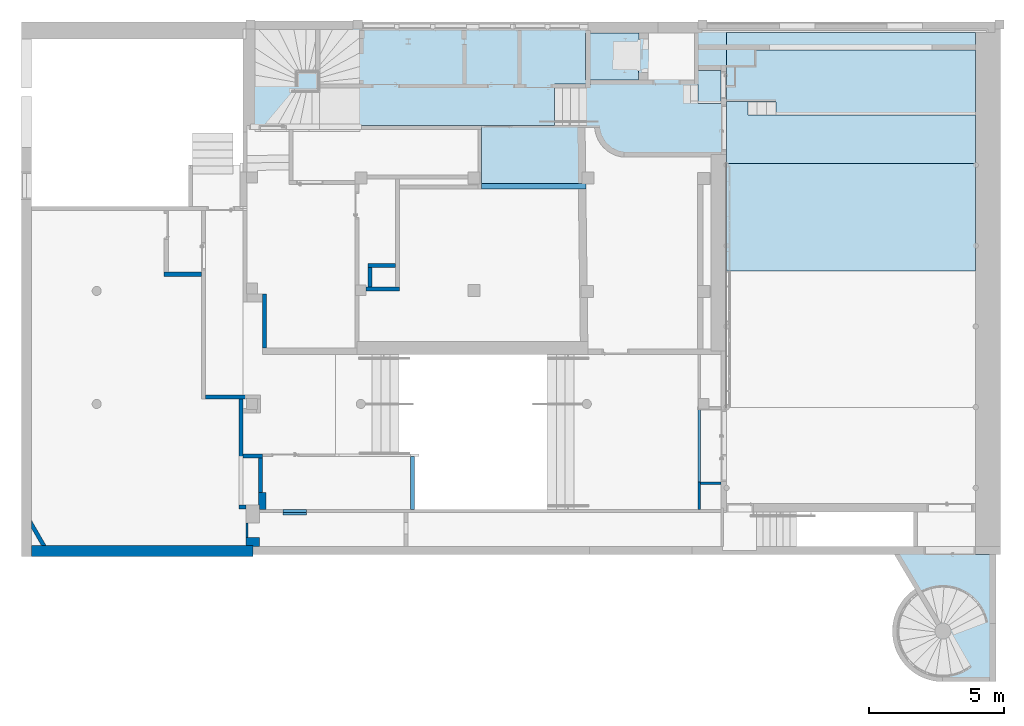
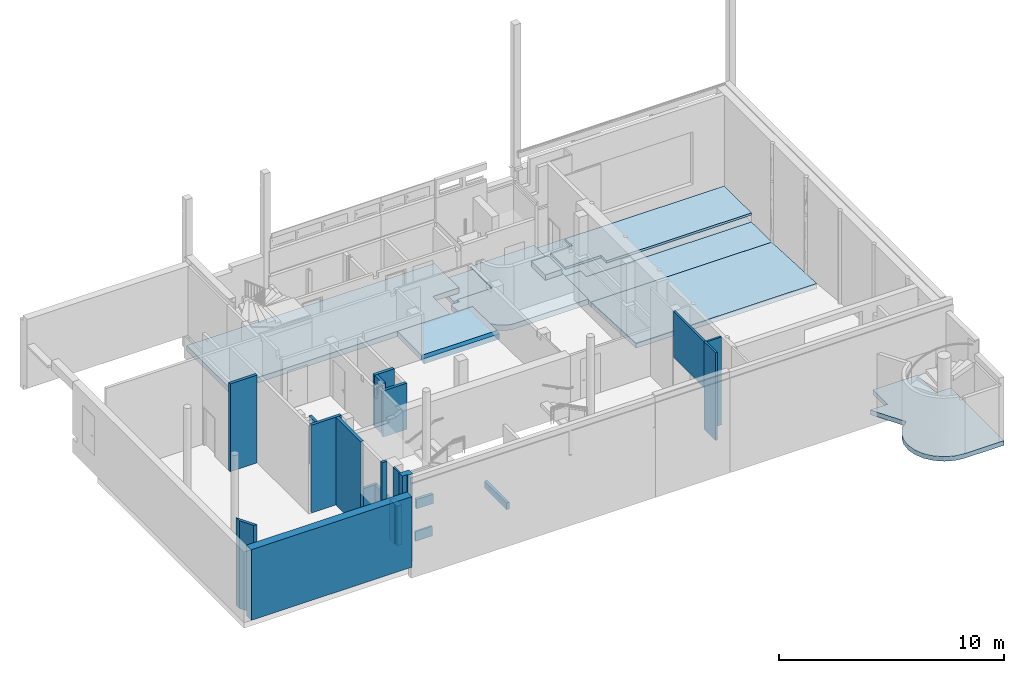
# One storey, part 4 of 39: 21 walls, 12 slabs, 2 elements without a shape of their own.
"""IFC4 building model written with IfcOpenShell, lengths in metres."""

from ifc_helpers import new_model, entity, si_unit, converted_unit, derived_unit, direction, frame, origin, place, context, subcontext, project, spatial, indexed_curve, outline, extrude, polygons, material, layer, layer_set, type_object, element, aggregate, save


model = new_model("IFC4")

# Units and contexts
model_context = context("Model", 3, precision=1e-05, world=origin(), true_north=direction((6.12303176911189e-17, 1.0)))
body_context = subcontext(model_context, "Body", "Model", "MODEL_VIEW")
ifc_project = project(units=[si_unit("LENGTHUNIT", "METRE"), si_unit("AREAUNIT", "SQUARE_METRE"), si_unit("VOLUMEUNIT", "CUBIC_METRE"), converted_unit("PLANEANGLEUNIT", "DEGREE", entity("IfcRatioMeasure", 0.0174532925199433), si_unit("PLANEANGLEUNIT", "RADIAN"), dimensions=[0, 0, 0, 0, 0, 0, 0]), si_unit("MASSUNIT", "GRAM", prefix="KILO"), derived_unit("MASSDENSITYUNIT", [(si_unit("MASSUNIT", "GRAM", prefix="KILO"), 1), (si_unit("LENGTHUNIT", "METRE"), -3)]), derived_unit("MOMENTOFINERTIAUNIT", [(si_unit("LENGTHUNIT", "METRE"), 4)]), si_unit("TIMEUNIT", "SECOND"), si_unit("FREQUENCYUNIT", "HERTZ"), si_unit("THERMODYNAMICTEMPERATUREUNIT", "DEGREE_CELSIUS"), derived_unit("THERMALTRANSMITTANCEUNIT", [(si_unit("MASSUNIT", "GRAM", prefix="KILO"), 1), (si_unit("THERMODYNAMICTEMPERATUREUNIT", "KELVIN"), -1), (si_unit("TIMEUNIT", "SECOND"), -3)]), derived_unit("VOLUMETRICFLOWRATEUNIT", [(si_unit("LENGTHUNIT", "METRE"), 3), (si_unit("TIMEUNIT", "SECOND"), -1)]), si_unit("ELECTRICCURRENTUNIT", "AMPERE"), si_unit("ELECTRICVOLTAGEUNIT", "VOLT"), si_unit("POWERUNIT", "WATT"), si_unit("FORCEUNIT", "NEWTON", prefix="KILO"), si_unit("ILLUMINANCEUNIT", "LUX"), si_unit("LUMINOUSFLUXUNIT", "LUMEN"), si_unit("LUMINOUSINTENSITYUNIT", "CANDELA"), derived_unit("USERDEFINED", [(si_unit("MASSUNIT", "GRAM", prefix="KILO"), -1), (si_unit("LENGTHUNIT", "METRE"), -2), (si_unit("TIMEUNIT", "SECOND"), 3), (si_unit("LUMINOUSFLUXUNIT", "LUMEN"), 1)]), derived_unit("LINEARVELOCITYUNIT", [(si_unit("LENGTHUNIT", "METRE"), 1), (si_unit("TIMEUNIT", "SECOND"), -1)]), si_unit("PRESSUREUNIT", "PASCAL"), derived_unit("USERDEFINED", [(si_unit("LENGTHUNIT", "METRE"), -2), (si_unit("MASSUNIT", "GRAM", prefix="KILO"), 1), (si_unit("TIMEUNIT", "SECOND"), -2)]), derived_unit("LINEARFORCEUNIT", [(si_unit("MASSUNIT", "GRAM", prefix="KILO"), 1), (si_unit("LENGTHUNIT", "METRE"), 1), (si_unit("TIMEUNIT", "SECOND"), -2), (si_unit("LENGTHUNIT", "METRE"), -1)]), derived_unit("PLANARFORCEUNIT", [(si_unit("MASSUNIT", "GRAM", prefix="KILO"), 1), (si_unit("LENGTHUNIT", "METRE"), 1), (si_unit("TIMEUNIT", "SECOND"), -2), (si_unit("LENGTHUNIT", "METRE"), -2)])], contexts=[model_context])

# Site, building, storey
site_placement = place(None, origin())
site = spatial("IfcSite", under=ifc_project, at=site_placement, Name="Default", CompositionType="ELEMENT")
building_placement = place(site_placement, origin())
building = spatial("IfcBuilding", under=site, at=building_placement, Name="HOTEL CONSULAIRE BOULOGNE SUR MER", CompositionType="ELEMENT")
storey_placement = place(building_placement, frame((0.0, 0.0, -5.02343668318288)))
storey = spatial("IfcBuildingStorey", under=building, at=storey_placement, Name="SS3", CompositionType="ELEMENT", Elevation=-5.02343668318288)

# Slabs
ifc_material_1 = material(Name="carrelage 30x30")
ifc_layer_1 = layer(ifc_material_1, 0.04, Name="carrelage 30x30")
ifc_material_2 = material(Name="Béton - Béton coulé sur place", Category="Béton")
ifc_layer_2 = layer(ifc_material_2, 0.25, Name="Béton - Béton coulé sur place", Category="Béton")
ifc_layer_set_1 = layer_set([ifc_layer_1, ifc_layer_2], Name="Sol:Dalle en béton -250 finition carrelage beige")
slab_type_1 = type_object("IfcSlabType", Name="Sol:Dalle en béton -250 finition carrelage beige", PredefinedType="FLOOR", material=ifc_layer_set_1)
slab_1_placement = place(storey_placement, origin())
element("IfcSlab", 1, at=slab_1_placement, inside=storey, type_object=slab_type_1, material=ifc_layer_set_1, Name="Sol:Dalle en béton -250 finition carrelage beige", ObjectType="Sol:Dalle en béton -250 finition carrelage beige", PredefinedType="FLOOR", context=body_context, shape_type="SweptSolid", body=[
    extrude(outline(indexed_curve([(-1.75867636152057, -8.01024461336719), (1.96990928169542, -8.01024461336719), (1.96990928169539, 4.67850883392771), (-0.211232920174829, 4.67850883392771), (-0.211232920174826, 3.33173577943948), (-1.7586763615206, 3.33173577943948), (-1.75867636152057, -8.01024461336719)], self_intersect=False)), frame((2.6304714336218, -11.9102334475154, 0.0800000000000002), z_axis=(0.0, 0.0, -1.0), x_axis=(0.0, 1.0, 0.0)), (0.0, 0.0, 1.0), 0.29),
])
ifc_material_3 = material(Name="Sol en vinyl", Category="Planchers")
ifc_layer_3 = layer(ifc_material_3, 0.04, Name="Sol en vinyl", Category="Planchers")
ifc_layer_4 = layer(ifc_material_2, 0.25, Name="Béton - Béton coulé sur place", Category="Béton")
ifc_layer_set_2 = layer_set([ifc_layer_3, ifc_layer_4], Name="Sol:Dalle en béton -250 + vinyle")
slab_type_2 = type_object("IfcSlabType", Name="Sol:Dalle en béton -250 + vinyle", PredefinedType="FLOOR", material=ifc_layer_set_2)
slab_2_placement = place(storey_placement, origin())
element("IfcSlab", 2, at=slab_2_placement, inside=storey, type_object=slab_type_2, material=ifc_layer_set_2, Name="Sol:Dalle en béton -250 + vinyle", ObjectType="Sol:Dalle en béton -250 + vinyle", PredefinedType="FLOOR", context=body_context, shape_type="SweptSolid", body=[
    extrude(outline(indexed_curve([(-1.07550000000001, -1.93067301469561), (1.07550000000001, -1.93067301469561), (1.0755, 1.91673352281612), (-1.07550000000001, 1.94461250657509), (-1.07550000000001, -1.93067301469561)], self_intersect=False)), frame((5.18872798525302, -14.744409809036, 0.0800000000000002), z_axis=(0.0, 0.0, -1.0), x_axis=(0.0, 1.0, 0.0)), (0.0, 0.0, 1.0), 0.29),
])
slab_type_3 = type_object("IfcSlabType", Name="Sol:Dalle en béton -250 + vinyle", PredefinedType="FLOOR", material=ifc_layer_set_2)
slab_3_placement = place(storey_placement, origin())
element("IfcSlab", 3, at=slab_3_placement, inside=storey, type_object=slab_type_3, material=ifc_layer_set_2, Name="Sol:Dalle en béton -250 + vinyle", ObjectType="Sol:Dalle en béton -250 + vinyle", PredefinedType="FLOOR", context=body_context, shape_type="Tessellation", body=[
    polygons([(7.13334049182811, -15.819909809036, -0.21), (7.13334049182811, -15.819909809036, 0.0800000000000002), (7.13598923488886, -16.0242732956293, 0.0220000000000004), (7.13598923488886, -16.0242732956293, -0.268), (3.25805497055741, -16.0242732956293, 0.0220000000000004), (3.25805497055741, -16.0242732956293, -0.268), (3.25805497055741, -15.819909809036, 0.0800000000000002), (3.25805497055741, -15.819909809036, -0.21)], [[[4, 1, 2, 3]], [[6, 4, 3, 5]], [[8, 6, 5, 7]], [[1, 8, 7, 2]], [[2, 7, 5, 3]], [[6, 8, 1, 4]]], closed=True),
])
slab_type_4 = type_object("IfcSlabType", Name="Sol:Dalle en béton -250 finition carrelage beige", PredefinedType="FLOOR", material=ifc_layer_set_1)
slab_4_placement = place(storey_placement, origin())
element("IfcSlab", 4, at=slab_4_placement, inside=storey, type_object=slab_type_4, material=ifc_layer_set_1, Name="Sol:Dalle en béton -250 finition carrelage beige", ObjectType="Sol:Dalle en béton -250 finition carrelage beige", PredefinedType="FLOOR", context=body_context, shape_type="SweptSolid", body=[
    extrude(outline(indexed_curve([(-1.19908464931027, -1.85516623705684), (0.389776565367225, -1.85516623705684), (0.389776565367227, -1.41934368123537), (0.579033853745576, -1.41934368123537), (0.579033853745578, 0.359615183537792), (2.52550099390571, 0.378346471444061), (2.52550099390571, 3.63090287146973), (-2.29522676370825, 3.63090287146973), (-2.29522676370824, -0.182800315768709), (-2.26919868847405, -0.348433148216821), (-2.22014949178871, -0.508763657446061), (-2.14905292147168, -0.660608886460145), (-2.05732042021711, -0.800954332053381), (-1.94677310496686, -0.927013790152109), (-1.8196056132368, -1.03628466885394), (-1.67834253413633, -1.12659767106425), (-1.5257882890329, -1.19615986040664), (-1.36497145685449, -1.24359025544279), (-1.19908464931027, -1.26794724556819), (-1.19908464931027, -1.85516623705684)], self_intersect=False)), frame((8.72832394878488, -12.5498251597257, -0.649999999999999), z_axis=(0.0, 0.0, -1.0), x_axis=(0.0, 1.0, 0.0)), (0.0, 0.0, 1.0), 0.29),
])
slab_type_5 = type_object("IfcSlabType", Name="Sol:Dalle en béton -250 finition carrelage beige", PredefinedType="FLOOR", material=ifc_layer_set_1)
slab_5_placement = place(storey_placement, origin())
element("IfcSlab", 5, at=slab_5_placement, inside=storey, type_object=slab_type_5, material=ifc_layer_set_1, Name="Sol:Dalle en béton -250 finition carrelage beige", ObjectType="Sol:Dalle en béton -250 finition carrelage beige", PredefinedType="FLOOR", context=body_context, shape_type="SweptSolid", body=[
    extrude(outline(indexed_curve([(-0.613798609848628, -0.427791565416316), (0.61379860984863, -0.427791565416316), (0.613798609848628, 0.427791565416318), (-0.613798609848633, 0.427791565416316), (-0.613798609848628, -0.427791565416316)], self_intersect=False)), frame((11.7314352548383, -12.2364782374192, -0.181), z_axis=(0.0, 0.0, -1.0), x_axis=(0.0, 1.0, 0.0)), (0.0, 0.0, 1.0), 0.29),
])
ifc_material_4 = material(Name="Moquette rouge")
ifc_layer_5 = layer(ifc_material_4, 0.02, Name="Moquette rouge")
ifc_material_5 = material(Name="Résineux, bois de construction", Category="Bois")
ifc_layer_6 = layer(ifc_material_5, 0.1, Name="Résineux, bois de construction", Category="Bois")
ifc_layer_set_3 = layer_set([ifc_layer_5, ifc_layer_6], Name="Sol:bois+moquette rouge")
slab_type_6 = type_object("IfcSlabType", Name="Sol:bois+moquette rouge", PredefinedType="FLOOR", material=ifc_layer_set_3)
slab_6_placement = place(storey_placement, origin())
element("IfcSlab", 6, at=slab_6_placement, inside=storey, type_object=slab_type_6, material=ifc_layer_set_3, Name="Sol:bois+moquette rouge", ObjectType="Sol:bois+moquette rouge", PredefinedType="FLOOR", context=body_context, shape_type="SweptSolid", body=[
    extrude(outline(indexed_curve([(-0.680435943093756, -3.05286644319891), (0.611252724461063, -3.05286644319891), (0.61125272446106, -1.94433728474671), (1.23561916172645, -1.9443372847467), (1.23561916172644, 6.20796721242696), (-1.16643594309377, 6.20796721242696), (-1.16643594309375, -1.21076348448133), (-0.680435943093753, -1.21076348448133), (-0.680435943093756, -3.05286644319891)], self_intersect=False)), frame((15.4120932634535, -12.1039323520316, -0.179999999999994), z_axis=(0.0, 0.0, -1.0), x_axis=(0.0, 1.0, 0.0)), (0.0, 0.0, 1.0), 0.12),
])

slab_7_placement = place(storey_placement, frame((12.3592268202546, -28.0238231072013, -0.940919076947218)))
slab_7 = element("IfcSlab", 7, at=slab_7_placement, inside=storey, Name="Sol:Dalle en béton -250", ObjectType="Sol:Dalle en béton -250", PredefinedType="NOTDEFINED")
slab_type_7 = type_object("IfcSlabType", Name="Sol:Dalle en béton -250", PredefinedType="ROOF")
slab_8_placement = place(slab_7_placement, origin())
slab_8 = element("IfcSlab", 8, at=slab_8_placement, type_object=slab_type_7, material=ifc_material_2, Name="Sol:Dalle en béton -250", ObjectType="Sol:Dalle en béton -250", PredefinedType="NOTDEFINED", context=body_context, shape_type="SweptSolid", body=[
    extrude(outline(indexed_curve([(-4.63041682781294, -2.42817546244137), (4.63041682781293, -2.42817546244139), (4.63041682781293, -0.628175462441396), (4.63041682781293, -0.528175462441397), (4.63041682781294, 1.77387964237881), (4.63041682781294, 1.99387964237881), (4.63041682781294, 2.42817546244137), (-4.63041682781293, 2.42817546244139), (-4.63041682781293, 1.99387964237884), (-4.63041682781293, 1.77387964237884), (-4.63041682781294, -0.0483400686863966), (-4.63041682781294, -0.128340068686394), (-4.63041682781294, -2.42817546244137)], self_intersect=False)), frame((4.63041682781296, 15.3816302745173, 0.250000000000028)), (0.0, 0.0, -1.0), 0.249999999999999),
])
slab_type_8 = type_object("IfcSlabType", Name="Sol:Dalle en béton -250", PredefinedType="ROOF")
slab_9_placement = place(slab_7_placement, origin())
slab_9 = element("IfcSlab", 9, at=slab_9_placement, type_object=slab_type_8, material=ifc_material_2, Name="Sol:Dalle en béton -250", ObjectType="Sol:Dalle en béton -250", PredefinedType="NOTDEFINED", context=body_context, shape_type="SweptSolid", body=[
    extrude(outline(indexed_curve([(-4.63227229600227, 2.00225325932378), (-4.62856135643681, -2.0022566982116), (4.62856135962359, -2.00225669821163), (4.62856135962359, 2.00225325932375), (-4.63227229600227, 2.00225325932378)], self_intersect=False)), frame((4.6322722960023, 10.9534565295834, 0.344999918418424), z_axis=(0.0, 0.0474465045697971, 0.998873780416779), x_axis=(1.0, 0.0, 0.0)), (0.0, 0.0474465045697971, -0.998873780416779), 0.249999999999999),
])
aggregate(slab_7, [slab_8, slab_9])

slab_10_placement = place(storey_placement, frame((12.3592268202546, -27.7238231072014, -0.690919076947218)))
slab_10 = element("IfcSlab", 10, at=slab_10_placement, inside=storey, Name="Sol:moquette rouge", ObjectType="Sol:moquette rouge", PredefinedType="NOTDEFINED")
slab_type_9 = type_object("IfcSlabType", Name="Sol:moquette rouge", PredefinedType="ROOF")
slab_11_placement = place(slab_10_placement, origin())
slab_11 = element("IfcSlab", 11, at=slab_11_placement, type_object=slab_type_9, material=ifc_material_4, Name="Sol:moquette rouge", ObjectType="Sol:moquette rouge", PredefinedType="NOTDEFINED", context=body_context, shape_type="SweptSolid", body=[
    extrude(outline(indexed_curve([(-4.63041682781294, -1.14991769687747), (4.63041682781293, -1.1499176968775), (4.63041682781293, 0.650082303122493), (-3.82737476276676, 0.650082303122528), (-3.82737476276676, 1.1499176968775), (-4.63041682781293, 1.1499176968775), (-4.63041682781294, -1.14991769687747)], self_intersect=False)), frame((4.63041682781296, 13.8033725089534, 0.0200000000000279)), (0.0, 0.0, -1.0), 0.0199999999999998),
])
slab_type_10 = type_object("IfcSlabType", Name="Sol:moquette rouge", PredefinedType="ROOF")
slab_12_placement = place(slab_10_placement, origin())
slab_12 = element("IfcSlab", 12, at=slab_12_placement, type_object=slab_type_10, material=ifc_material_4, Name="Sol:moquette rouge", ObjectType="Sol:moquette rouge", PredefinedType="NOTDEFINED", context=body_context, shape_type="SweptSolid", body=[
    extrude(outline(indexed_curve([(-4.63227229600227, 2.00225325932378), (-4.62856135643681, -2.0022566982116), (4.62856135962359, -2.00225669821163), (4.62856135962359, 2.00225325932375), (-4.63227229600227, 2.00225325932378)], self_intersect=False)), frame((4.6322722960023, 10.6534565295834, 0.114999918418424), z_axis=(0.0, 0.0474465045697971, 0.998873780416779), x_axis=(1.0, 0.0, 0.0)), (0.0, 0.0474465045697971, -0.998873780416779), 0.0199999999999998),
])
aggregate(slab_10, [slab_11, slab_12])

ifc_layer_7 = layer(ifc_material_2, 0.25, Name="Béton - Béton coulé sur place", Category="Béton")
ifc_layer_set_4 = layer_set([ifc_layer_7], Name="Sol:Dalle en béton -250")
slab_type_11 = type_object("IfcSlabType", Name="Sol:Dalle en béton -250", PredefinedType="FLOOR", material=ifc_layer_set_4)
slab_13_placement = place(storey_placement, origin())
element("IfcSlab", 13, at=slab_13_placement, inside=storey, type_object=slab_type_11, material=ifc_layer_set_4, Name="Sol:Dalle en béton -250", ObjectType="Sol:Dalle en béton -250", PredefinedType="FLOOR", context=body_context, shape_type="SweptSolid", body=[
    extrude(outline(indexed_curve([(-0.868233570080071, -0.983657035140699), (0.868233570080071, -0.983657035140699), (0.868233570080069, 0.992012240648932), (-0.868233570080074, 0.975301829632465), (-0.868233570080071, -0.983657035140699)], self_intersect=False)), frame((8.11263730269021, -11.1025577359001, -0.689999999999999), z_axis=(0.0, 0.0, -1.0), x_axis=(0.0, 1.0, 0.0)), (0.0, 0.0, 1.0), 0.249999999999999),
])
slab_type_12 = type_object("IfcSlabType", Name="Sol:Dalle en béton -250", PredefinedType="FLOOR", material=ifc_layer_set_4)
slab_14_placement = place(storey_placement, origin())
element("IfcSlab", 14, at=slab_14_placement, inside=storey, type_object=slab_type_12, material=ifc_layer_set_4, Name="Sol:Dalle en béton -250", ObjectType="Sol:Dalle en béton -250", PredefinedType="FLOOR", context=body_context, shape_type="SweptSolid", body=[
    extrude(outline(indexed_curve([(-1.85198878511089, -3.95181011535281), (0.153198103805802, -3.95181011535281), (0.625143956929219, -3.88531675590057), (1.06520008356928, -3.70227342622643), (1.44508088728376, -3.41444564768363), (1.74036867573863, -3.04033419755), (1.93208316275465, -2.60398592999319), (2.00790146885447, -2.13344811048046), (1.9629502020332, -1.65896561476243), (1.80011870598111, -1.21103687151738), (1.52987334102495, -0.818453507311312), (1.16958473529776, -0.506449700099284), (2.10997260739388, 1.07026365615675), (1.21936252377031, 1.07026365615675), (1.21936252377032, 2.36450765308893), (-1.08375146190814, 2.36450765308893), (-1.08375146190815, 0.770263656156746), (-1.85198878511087, 0.770263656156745), (-1.85198878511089, -3.95181011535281)], self_intersect=False)), frame((20.5363090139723, -30.3883307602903, 0.0), z_axis=(0.0, 0.0, -1.0), x_axis=(-1.0, 0.0, 0.0)), (0.0, 0.0, 1.0), 0.249999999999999),
])

# Walls
ifc_material_6 = material(Name="Mur par défaut", Category="Divers")
ifc_layer_8 = layer(ifc_material_6, 0.1, Name="Mur par défaut", Category="Divers")
ifc_layer_set_5 = layer_set([ifc_layer_8], Name="Mur de base:Générique - Int. 100 mm")
wall_type_1 = type_object("IfcWallType", Name="Mur de base:Générique - Int. 100 mm", PredefinedType="NOTDEFINED", material=ifc_layer_set_5)
wall_1_placement = place(storey_placement, frame((-4.11427841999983, -27.996273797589, 0.0)))
element("IfcWall", 15, at=wall_1_placement, inside=storey, type_object=wall_type_1, material=ifc_layer_set_5, Name="Mur de base:Générique - Int. 100 mm", ObjectType="Mur de base:Générique - Int. 100 mm", PredefinedType="NOTDEFINED", context=body_context, shape_type="SweptSolid", body=[
    extrude(outline(indexed_curve([(0.859, 0.0500000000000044), (-1.60694428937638e-16, 0.0500000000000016), (1.60694428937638e-16, -0.0500000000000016), (0.859, -0.0499999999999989), (0.859, 0.0500000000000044)], self_intersect=False)), origin(), (0.0, 0.0, 1.0), 0.516999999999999),
])
wall_2_placement = place(storey_placement, frame((11.3522268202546, -27.9462737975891, 0.0), z_axis=(0.0, 0.0, 1.0), x_axis=(0.0, 1.0, 0.0)))
element("IfcWall", 16, at=wall_2_placement, inside=storey, type_object=wall_type_1, material=ifc_layer_set_5, Name="Mur de base:Générique - Int. 100 mm", ObjectType="Mur de base:Générique - Int. 100 mm", PredefinedType="NOTDEFINED", context=body_context, shape_type="SweptSolid", body=[
    extrude(outline(indexed_curve([(1.03275103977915, -0.0500000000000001), (1.03275103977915, 0.0499999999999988), (-7.49771069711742e-17, 0.0499999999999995), (7.49771069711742e-17, -0.0499999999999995), (0.932751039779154, -0.0500000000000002), (1.03275103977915, -0.0500000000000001)], self_intersect=False)), origin(), (0.0, 0.0, 1.0), 4.75343668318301),
])
wall_3_placement = place(storey_placement, frame((11.3522268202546, -26.9635227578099, 2.24911303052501), z_axis=(0.0, 0.0, 1.0), x_axis=(0.0, 1.0, 0.0)))
element("IfcWall", 17, at=wall_3_placement, inside=storey, type_object=wall_type_1, material=ifc_layer_set_5, Name="Mur de base:Générique - Int. 100 mm", ObjectType="Mur de base:Générique - Int. 100 mm", PredefinedType="NOTDEFINED", context=body_context, shape_type="SweptSolid", body=[
    extrude(outline(indexed_curve([(2.74133269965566, 0.0499999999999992), (-7.49771069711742e-17, 0.0499999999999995), (7.49771069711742e-17, -0.0499999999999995), (2.74133269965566, -0.0499999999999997), (2.74133269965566, 0.0499999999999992)], self_intersect=False)), origin(), (0.0, 0.0, 1.0), 2.504323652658),
])
wall_4_placement = place(storey_placement, frame((11.4022268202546, -26.9635227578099, 0.0)))
element("IfcWall", 18, at=wall_4_placement, inside=storey, type_object=wall_type_1, material=ifc_layer_set_5, Name="Mur de base:Générique - Int. 100 mm", ObjectType="Mur de base:Générique - Int. 100 mm", PredefinedType="NOTDEFINED", context=body_context, shape_type="SweptSolid", body=[
    extrude(outline(indexed_curve([(0.756999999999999, 0.0500000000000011), (-2.4820780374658e-16, 0.0500000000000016), (2.4820780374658e-16, -0.0500000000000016), (0.756999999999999, -0.0500000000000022), (0.756999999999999, 0.0500000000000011)], self_intersect=False)), origin(), (0.0, 0.0, 1.0), 4.75343668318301),
])
ifc_layer_9 = layer(ifc_material_6, 0.15, Name="Mur par défaut", Category="Divers")
ifc_layer_set_6 = layer_set([ifc_layer_9], Name="Mur de base:Générique - Int. 150 mm")
wall_type_2 = type_object("IfcWallType", Name="Mur de base:Générique - Int. 150 mm", PredefinedType="NOTDEFINED", material=ifc_layer_set_6)
wall_5_placement = place(storey_placement, frame((-7.00398856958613, -23.7595842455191, 0.0)))
element("IfcWall", 19, at=wall_5_placement, inside=storey, type_object=wall_type_2, material=ifc_layer_set_6, Name="Mur de base:Générique - Int. 150 mm", ObjectType="Mur de base:Générique - Int. 150 mm", PredefinedType="NOTDEFINED", context=body_context, shape_type="SweptSolid", body=[
    extrude(outline(indexed_curve([(1.542, 0.0749999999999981), (-3.16352961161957e-16, 0.0750000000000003), (3.16352961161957e-16, -0.0750000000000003), (1.542, -0.0750000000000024), (1.542, 0.0749999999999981)], self_intersect=False)), origin(), (0.0, 0.0, 1.0), 4.75343668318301),
])
wall_6_placement = place(storey_placement, frame((-5.68720574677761, -23.8345842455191, 0.0), z_axis=(0.0, 0.0, 1.0), x_axis=(0.0, -1.0, 0.0)))
element("IfcWall", 20, at=wall_6_placement, inside=storey, type_object=wall_type_2, material=ifc_layer_set_6, Name="Mur de base:Générique - Int. 150 mm", ObjectType="Mur de base:Générique - Int. 150 mm", PredefinedType="NOTDEFINED", context=body_context, shape_type="SweptSolid", body=[
    extrude(outline(indexed_curve([(2.18617176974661, 0.0750000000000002), (-1.07352712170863e-16, 0.0750000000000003), (1.07352712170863e-16, -0.0750000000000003), (2.18617176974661, -0.0750000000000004), (2.18617176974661, 0.0750000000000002)], self_intersect=False)), origin(), (0.0, 0.0, 1.0), 4.75343668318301),
])
wall_7_placement = place(storey_placement, frame((-5.61220574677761, -25.9457560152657, 0.0)))
element("IfcWall", 21, at=wall_7_placement, inside=storey, type_object=wall_type_2, material=ifc_layer_set_6, Name="Mur de base:Générique - Int. 150 mm", ObjectType="Mur de base:Générique - Int. 150 mm", PredefinedType="NOTDEFINED", context=body_context, shape_type="SweptSolid", body=[
    extrude(outline(indexed_curve([(0.735927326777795, 0.0749999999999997), (-3.820697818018e-16, 0.0750000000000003), (3.820697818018e-16, -0.0750000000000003), (0.735927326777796, -0.0750000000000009), (0.735927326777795, 0.0749999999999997)], self_intersect=False)), origin(), (0.0, 0.0, 1.0), 2.14999999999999),
])
wall_8_placement = place(storey_placement, frame((-7.15398856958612, -19.1952500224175, 0.0), z_axis=(0.0, 0.0, 1.0), x_axis=(-1.0, 0.0, 0.0)))
element("IfcWall", 22, at=wall_8_placement, inside=storey, type_object=wall_type_2, material=ifc_layer_set_6, Name="Mur de base:Générique - Int. 150 mm", ObjectType="Mur de base:Générique - Int. 150 mm", PredefinedType="NOTDEFINED", context=body_context, shape_type="SweptSolid", body=[
    extrude(outline(indexed_curve([(1.38144960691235, 0.0750000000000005), (-2.4799856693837e-16, 0.0750000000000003), (2.4799856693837e-16, -0.0750000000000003), (1.38144960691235, -0.075), (1.38144960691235, 0.0750000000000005)], self_intersect=False)), origin(), (0.0, 0.0, 1.0), 4.75343668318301),
])
wall_9_placement = place(storey_placement, frame((-12.9973015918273, -29.3055671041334, 0.0), z_axis=(0.0, 0.0, 1.0), x_axis=(-0.499999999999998, 0.86602540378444, 0.0)))
element("IfcWall", 23, at=wall_9_placement, inside=storey, type_object=wall_type_2, material=ifc_layer_set_6, Name="Mur de base:Générique - Int. 150 mm", ObjectType="Mur de base:Générique - Int. 150 mm", PredefinedType="NOTDEFINED", context=body_context, shape_type="SweptSolid", body=[
    extrude(outline(indexed_curve([(1.086, -0.075000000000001), (0.826192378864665, 0.0749999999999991), (0.0866025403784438, 0.075), (-5.4989346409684e-16, -0.0750000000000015), (1.086, -0.075000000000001)], self_intersect=False)), origin(), (0.0, 0.0, 1.0), 4.75343668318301),
])
wall_10_placement = place(storey_placement, frame((-5.75198856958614, -27.850273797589, 0.0)))
element("IfcWall", 24, at=wall_10_placement, inside=storey, type_object=wall_type_2, material=ifc_layer_set_6, Name="Mur de base:Générique - Int. 150 mm", ObjectType="Mur de base:Générique - Int. 150 mm", PredefinedType="NOTDEFINED", context=body_context, shape_type="SweptSolid", body=[
    extrude(outline(indexed_curve([(0.257299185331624, 0.0750000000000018), (-4.44030386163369e-16, 0.0750000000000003), (4.44030386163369e-16, -0.0750000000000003), (0.257299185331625, -0.0749999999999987), (0.257299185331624, 0.0750000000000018)], self_intersect=False)), origin(), (0.0, 0.0, 1.0), 4.75343668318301),
])
wall_11_placement = place(storey_placement, frame((-4.95127841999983, -27.314273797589, 0.0), z_axis=(0.0, 0.0, 1.0), x_axis=(0.0, 1.0, 0.0)))
element("IfcWall", 25, at=wall_11_placement, inside=storey, type_object=wall_type_2, material=ifc_layer_set_6, Name="Mur de base:Générique - Int. 150 mm", ObjectType="Mur de base:Générique - Int. 150 mm", PredefinedType="NOTDEFINED", context=body_context, shape_type="SweptSolid", body=[
    extrude(outline(indexed_curve([(1.29351778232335, 0.0749999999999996), (-5.8730097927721e-16, 0.0750000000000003), (5.87300979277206e-16, -0.0749999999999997), (1.29351778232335, -0.0749999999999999), (1.29351778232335, 0.0749999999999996)], self_intersect=False)), origin(), (0.0, 0.0, 1.0), 2.14999999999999),
])
wall_12_placement = place(storey_placement, frame((-4.11427841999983, -28.065273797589, 1.81681085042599)))
element("IfcWall", 26, at=wall_12_placement, inside=storey, type_object=wall_type_2, material=ifc_layer_set_6, Name="Mur de base:Générique - Int. 150 mm", ObjectType="Mur de base:Générique - Int. 150 mm", PredefinedType="NOTDEFINED", context=body_context, shape_type="SweptSolid", body=[
    extrude(outline(indexed_curve([(0.858999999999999, 0.075000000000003), (-2.4104164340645e-16, 0.0750000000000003), (2.4104164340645e-16, -0.0750000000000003), (0.859, -0.0749999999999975), (0.858999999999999, 0.075000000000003)], self_intersect=False)), origin(), (0.0, 0.0, 1.0), 0.503189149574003),
])
wall_13_placement = place(storey_placement, frame((-4.81277317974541, -21.9392190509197, -0.43), z_axis=(0.0, 0.0, 1.0), x_axis=(0.0, 1.0, 0.0)))
element("IfcWall", 27, at=wall_13_placement, inside=storey, type_object=wall_type_2, material=ifc_layer_set_6, Name="Mur de base:Générique - Int. 150 mm", ObjectType="Mur de base:Générique - Int. 150 mm", PredefinedType="NOTDEFINED", context=body_context, shape_type="SweptSolid", body=[
    extrude(outline(indexed_curve([(2.01741372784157, 0.0749999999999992), (-1.41867448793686e-16, 0.0749999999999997), (1.41867448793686e-16, -0.0749999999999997), (2.01741372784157, -0.0749999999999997), (2.01741372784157, 0.0749999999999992)], self_intersect=False)), origin(), (0.0, 0.0, 1.0), 2.57999999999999),
])
wall_14_placement = place(storey_placement, frame((0.0578410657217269, -18.8609027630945, -0.43), z_axis=(0.0, 0.0, 1.0), x_axis=(-1.0, 0.0, 0.0)))
element("IfcWall", 28, at=wall_14_placement, inside=storey, type_object=wall_type_2, material=ifc_layer_set_6, Name="Mur de base:Générique - Int. 150 mm", ObjectType="Mur de base:Générique - Int. 150 mm", PredefinedType="NOTDEFINED", context=body_context, shape_type="SweptSolid", body=[
    extrude(outline(indexed_curve([(1.012, 0.0750000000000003), (5.07047024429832e-19, 0.0750000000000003), (-5.07047024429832e-19, -0.0750000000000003), (1.012, -0.0750000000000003), (1.012, 0.0750000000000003)], self_intersect=False)), origin(), (0.0, 0.0, 1.0), 2.79499999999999),
])
wall_15_placement = place(storey_placement, frame((-0.879158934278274, -18.9359027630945, -0.43), z_axis=(0.0, 0.0, 1.0), x_axis=(0.0, -1.0, 0.0)))
element("IfcWall", 29, at=wall_15_placement, inside=storey, type_object=wall_type_2, material=ifc_layer_set_6, Name="Mur de base:Générique - Int. 150 mm", ObjectType="Mur de base:Générique - Int. 150 mm", PredefinedType="NOTDEFINED", context=body_context, shape_type="SweptSolid", body=[
    extrude(outline(indexed_curve([(0.726999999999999, 0.0750000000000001), (-1.1865086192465e-16, 0.075), (1.1865086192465e-16, -0.075), (0.726999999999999, -0.0749999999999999), (0.726999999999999, 0.0750000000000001)], self_intersect=False)), origin(), (0.0, 0.0, 1.0), 2.79499999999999),
])
wall_16_placement = place(storey_placement, frame((-1.02882322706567, -19.7379027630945, -0.43)))
element("IfcWall", 30, at=wall_16_placement, inside=storey, type_object=wall_type_2, material=ifc_layer_set_6, Name="Mur de base:Générique - Int. 150 mm", ObjectType="Mur de base:Générique - Int. 150 mm", PredefinedType="NOTDEFINED", context=body_context, shape_type="SweptSolid", body=[
    extrude(outline(indexed_curve([(1.23666429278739, 0.0750000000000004), (3.42728324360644e-19, 0.0750000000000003), (-3.42728324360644e-19, -0.0750000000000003), (1.23666429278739, -0.0750000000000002), (1.23666429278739, 0.0750000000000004)], self_intersect=False)), origin(), (0.0, 0.0, 1.0), 2.49899999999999),
])
wall_17_placement = place(storey_placement, frame((0.685721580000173, -27.946273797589, 0.0), z_axis=(0.0, 0.0, 1.0), x_axis=(0.0, 1.0, 0.0)))
element("IfcWall", 31, at=wall_17_placement, inside=storey, type_object=wall_type_2, material=ifc_layer_set_6, Name="Mur de base:Générique - Int. 150 mm", ObjectType="Mur de base:Générique - Int. 150 mm", PredefinedType="NOTDEFINED", context=body_context, shape_type="SweptSolid", body=[
    extrude(outline(indexed_curve([(1.97551778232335, 0.075), (-1.14327286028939e-16, 0.075), (1.14327286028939e-16, -0.075), (1.97551778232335, -0.075), (1.97551778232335, 0.075)], self_intersect=False)), origin(), (0.0, 0.0, 1.0), 0.363405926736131),
])
ifc_layer_10 = layer(ifc_material_6, 0.08, Name="Mur par défaut", Category="Divers")
ifc_layer_set_7 = layer_set([ifc_layer_10], Name="Mur de base:Générique - Int. 80")
wall_type_3 = type_object("IfcWallType", Name="Mur de base:Générique - Int. 80", PredefinedType="NOTDEFINED", material=ifc_layer_set_7)
wall_18_placement = place(storey_placement, frame((-5.45468938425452, -28.9800671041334, 0.0), z_axis=(0.0, 0.0, 1.0), x_axis=(0.0, 1.0, 0.0)))
element("IfcWall", 32, at=wall_18_placement, inside=storey, type_object=wall_type_3, material=ifc_layer_set_7, Name="Mur de base:Générique - Int. 80", ObjectType="Mur de base:Générique - Int. 80", PredefinedType="NOTDEFINED", context=body_context, shape_type="SweptSolid", body=[
    extrude(outline(indexed_curve([(0.541999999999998, 0.0399999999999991), (-4.67516417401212e-17, 0.0399999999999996), (4.67516417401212e-17, -0.0399999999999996), (0.541999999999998, -0.04), (0.541999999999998, 0.0399999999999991)], self_intersect=False)), origin(), (0.0, 0.0, 1.0), 4.75343668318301),
])
ifc_layer_11 = layer(ifc_material_6, 0.42, Name="Mur par défaut", Category="Divers")
ifc_layer_set_8 = layer_set([ifc_layer_11], Name="Mur de base:Générique - Ext.420")
wall_type_4 = type_object("IfcWallType", Name="Mur de base:Générique - Ext.420", PredefinedType="NOTDEFINED", material=ifc_layer_set_8)
wall_19_placement = place(storey_placement, frame((-13.4753496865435, -29.4780671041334, 0.0)))
element("IfcWall", 33, at=wall_19_placement, inside=storey, type_object=wall_type_4, material=ifc_layer_set_8, Name="Mur de base:Générique - Ext.420", ObjectType="Mur de base:Générique - Ext.420", PredefinedType="NOTDEFINED", context=body_context, shape_type="SweptSolid", body=[
    extrude(outline(indexed_curve([(8.23066030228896, 0.21), (-8.84884892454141e-16, 0.21), (8.84884892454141e-16, -0.21), (8.23066030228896, -0.21), (8.23066030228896, 0.21)], self_intersect=False)), origin(), (0.0, 0.0, 1.0), 3.82384855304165),
])
ifc_layer_12 = layer(ifc_material_6, 0.5, Name="Mur par défaut", Category="Divers")
ifc_layer_set_9 = layer_set([ifc_layer_12], Name="Mur de base:Générique - Int.500")
wall_type_5 = type_object("IfcWallType", Name="Mur de base:Générique - Int.500", PredefinedType="NOTDEFINED", material=ifc_layer_set_9)
wall_20_placement = place(storey_placement, frame((-5.24468938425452, -29.3180671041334, 0.0), z_axis=(0.0, 0.0, 1.0), x_axis=(0.0, 1.0, 0.0)))
element("IfcWall", 34, at=wall_20_placement, inside=storey, type_object=wall_type_5, material=ifc_layer_set_9, Name="Mur de base:Générique - Int.500", ObjectType="Mur de base:Générique - Int.500", PredefinedType="NOTDEFINED", context=body_context, shape_type="SweptSolid", body=[
    extrude(outline(indexed_curve([(0.338000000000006, -0.250000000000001), (0.338000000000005, 0.17), (0.338000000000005, 0.249999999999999), (0.0500000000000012, 0.25), (0.0500000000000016, -9.94963513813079e-16), (1.90375871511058e-30, -1.08286712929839e-15), (4.39518077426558e-16, -0.250000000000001), (0.338000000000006, -0.250000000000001)], self_intersect=False)), origin(), (0.0, 0.0, 1.0), 4.75343668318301),
])
ifc_layer_13 = layer(ifc_material_6, 0.27, Name="Mur par défaut", Category="Divers")
ifc_layer_set_10 = layer_set([ifc_layer_13], Name="Mur de base:Générique - Int. 270 mm")
wall_type_6 = type_object("IfcWallType", Name="Mur de base:Générique - Int. 270 mm", PredefinedType="NOTDEFINED", material=ifc_layer_set_10)
wall_21_placement = place(storey_placement, frame((-4.89127841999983, -27.946273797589, 0.0), z_axis=(0.0, 0.0, 1.0), x_axis=(0.0, 1.0, 0.0)))
element("IfcWall", 35, at=wall_21_placement, inside=storey, type_object=wall_type_6, material=ifc_layer_set_10, Name="Mur de base:Générique - Int. 270 mm", ObjectType="Mur de base:Générique - Int. 270 mm", PredefinedType="NOTDEFINED", context=body_context, shape_type="SweptSolid", body=[
    extrude(outline(indexed_curve([(0.632000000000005, -0.135), (0.632000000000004, -0.0149999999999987), (0.632000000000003, 0.135), (0.171000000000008, 0.135), (0.171000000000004, 0.103410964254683), (-8.09778140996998e-16, 0.103410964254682), (1.05714176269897e-15, -0.135), (0.632000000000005, -0.135)], self_intersect=False)), origin(), (0.0, 0.0, 1.0), 2.14999999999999),
])

save(model, "model.ifc")
